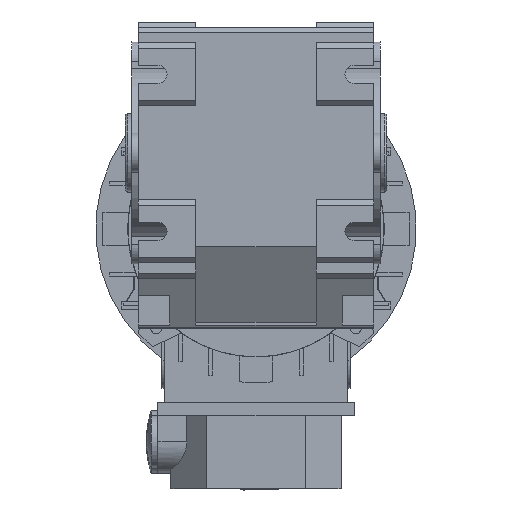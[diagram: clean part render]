
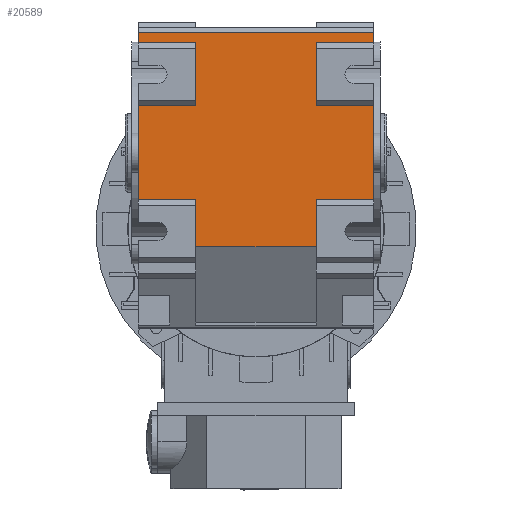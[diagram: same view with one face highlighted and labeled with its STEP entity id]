
A CAD part, left-side view. The second image highlights one B-rep face of the part: STEP entity #20589.
In plain terms, the highlighted planar face has unit normal (-1, 0, 0).
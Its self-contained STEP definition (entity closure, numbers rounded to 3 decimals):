
#379=PLANE('',#21843);
#1520=FACE_OUTER_BOUND('',#2653,.T.);
#2653=EDGE_LOOP('',(#14976,#14977,#14978,#14979,#14980,#14981,#14982,#14983,
#14984,#14985,#14986,#14987,#14988,#14989,#14990,#14991));
#4397=LINE('',#29626,#6833);
#4401=LINE('',#29632,#6837);
#4402=LINE('',#29635,#6838);
#4404=LINE('',#29639,#6840);
#4409=LINE('',#29649,#6845);
#4412=LINE('',#29655,#6848);
#4472=LINE('',#29801,#6908);
#4475=LINE('',#29807,#6911);
#4477=LINE('',#29810,#6913);
#4560=LINE('',#29986,#6996);
#4561=LINE('',#29989,#6997);
#4583=LINE('',#30039,#7019);
#4587=LINE('',#30047,#7023);
#4588=LINE('',#30049,#7024);
#4589=LINE('',#30050,#7025);
#4590=LINE('',#30051,#7026);
#6833=VECTOR('',#23795,1.);
#6837=VECTOR('',#23801,1.);
#6838=VECTOR('',#23804,1.);
#6840=VECTOR('',#23808,1.);
#6845=VECTOR('',#23815,1.);
#6848=VECTOR('',#23820,1.);
#6908=VECTOR('',#23958,1.);
#6911=VECTOR('',#23963,1.);
#6913=VECTOR('',#23967,1.);
#6996=VECTOR('',#24140,1.);
#6997=VECTOR('',#24143,1.);
#7019=VECTOR('',#24191,1.);
#7023=VECTOR('',#24197,1.);
#7024=VECTOR('',#24198,1.);
#7025=VECTOR('',#24199,1.);
#7026=VECTOR('',#24200,1.);
#9281=VERTEX_POINT('',#29623);
#9282=VERTEX_POINT('',#29625);
#9283=VERTEX_POINT('',#29630);
#9284=VERTEX_POINT('',#29634);
#9285=VERTEX_POINT('',#29638);
#9286=VERTEX_POINT('',#29642);
#9289=VERTEX_POINT('',#29647);
#9291=VERTEX_POINT('',#29652);
#9338=VERTEX_POINT('',#29799);
#9340=VERTEX_POINT('',#29805);
#9388=VERTEX_POINT('',#29984);
#9389=VERTEX_POINT('',#29988);
#9403=VERTEX_POINT('',#30037);
#9404=VERTEX_POINT('',#30038);
#9407=VERTEX_POINT('',#30046);
#9408=VERTEX_POINT('',#30048);
#11374=EDGE_CURVE('',#9282,#9281,#4397,.T.);
#11378=EDGE_CURVE('',#9283,#9282,#4401,.T.);
#11379=EDGE_CURVE('',#9283,#9284,#4402,.T.);
#11381=EDGE_CURVE('',#9284,#9285,#4404,.T.);
#11386=EDGE_CURVE('',#9289,#9286,#4409,.T.);
#11389=EDGE_CURVE('',#9291,#9286,#4412,.T.);
#11462=EDGE_CURVE('',#9289,#9338,#4472,.T.);
#11465=EDGE_CURVE('',#9338,#9340,#4475,.T.);
#11467=EDGE_CURVE('',#9340,#9285,#4477,.T.);
#11556=EDGE_CURVE('',#9388,#9281,#4560,.T.);
#11557=EDGE_CURVE('',#9389,#9291,#4561,.T.);
#11582=EDGE_CURVE('',#9403,#9404,#4583,.T.);
#11586=EDGE_CURVE('',#9404,#9407,#4587,.T.);
#11587=EDGE_CURVE('',#9408,#9407,#4588,.T.);
#11588=EDGE_CURVE('',#9408,#9389,#4589,.T.);
#11589=EDGE_CURVE('',#9403,#9388,#4590,.T.);
#14976=ORIENTED_EDGE('',*,*,#11582,.T.);
#14977=ORIENTED_EDGE('',*,*,#11586,.T.);
#14978=ORIENTED_EDGE('',*,*,#11587,.F.);
#14979=ORIENTED_EDGE('',*,*,#11588,.T.);
#14980=ORIENTED_EDGE('',*,*,#11557,.T.);
#14981=ORIENTED_EDGE('',*,*,#11389,.T.);
#14982=ORIENTED_EDGE('',*,*,#11386,.F.);
#14983=ORIENTED_EDGE('',*,*,#11462,.T.);
#14984=ORIENTED_EDGE('',*,*,#11465,.T.);
#14985=ORIENTED_EDGE('',*,*,#11467,.T.);
#14986=ORIENTED_EDGE('',*,*,#11381,.F.);
#14987=ORIENTED_EDGE('',*,*,#11379,.F.);
#14988=ORIENTED_EDGE('',*,*,#11378,.T.);
#14989=ORIENTED_EDGE('',*,*,#11374,.T.);
#14990=ORIENTED_EDGE('',*,*,#11556,.F.);
#14991=ORIENTED_EDGE('',*,*,#11589,.F.);
#20589=ADVANCED_FACE('',(#1520),#379,.T.);
#21843=AXIS2_PLACEMENT_3D('',#30045,#24195,#24196);
#23795=DIRECTION('',(0.,0.,-1.));
#23801=DIRECTION('',(0.,1.,0.));
#23804=DIRECTION('',(0.,0.,1.));
#23808=DIRECTION('',(0.,1.,0.));
#23815=DIRECTION('',(0.,1.,0.));
#23820=DIRECTION('',(0.,0.,1.));
#23958=DIRECTION('',(0.,0.,1.));
#23963=DIRECTION('',(0.,1.,0.));
#23967=DIRECTION('',(0.,0.,-1.));
#24140=DIRECTION('',(0.,1.,0.));
#24143=DIRECTION('',(0.,1.,0.));
#24191=DIRECTION('',(0.,-1.,0.));
#24195=DIRECTION('center_axis',(-1.,0.,0.));
#24196=DIRECTION('ref_axis',(0.,1.,0.));
#24197=DIRECTION('',(0.,0.,1.));
#24198=DIRECTION('',(0.,1.,0.));
#24199=DIRECTION('',(0.,0.,1.));
#24200=DIRECTION('',(0.,0.,1.));
#29623=CARTESIAN_POINT('',(-130.5,45.,11.));
#29625=CARTESIAN_POINT('',(-130.5,45.,47.));
#29626=CARTESIAN_POINT('',(-130.5,45.,11.));
#29630=CARTESIAN_POINT('',(-130.5,23.,47.));
#29632=CARTESIAN_POINT('',(-130.5,-45.,47.));
#29634=CARTESIAN_POINT('',(-130.5,23.,71.));
#29635=CARTESIAN_POINT('',(-130.5,23.,30.));
#29638=CARTESIAN_POINT('',(-130.5,45.,71.));
#29639=CARTESIAN_POINT('',(-130.5,-45.,71.));
#29642=CARTESIAN_POINT('',(-130.5,-23.,71.));
#29647=CARTESIAN_POINT('',(-130.5,-45.,71.));
#29649=CARTESIAN_POINT('',(-130.5,-45.,71.));
#29652=CARTESIAN_POINT('',(-130.5,-23.,47.));
#29655=CARTESIAN_POINT('',(-130.5,-23.,30.));
#29799=CARTESIAN_POINT('',(-130.5,-45.,75.));
#29801=CARTESIAN_POINT('',(-130.5,-45.,71.));
#29805=CARTESIAN_POINT('',(-130.5,45.,75.));
#29807=CARTESIAN_POINT('',(-130.5,-45.,75.));
#29810=CARTESIAN_POINT('',(-130.5,45.,71.));
#29984=CARTESIAN_POINT('',(-130.5,23.,11.));
#29986=CARTESIAN_POINT('',(-130.5,-45.,11.));
#29988=CARTESIAN_POINT('',(-130.5,-45.,47.));
#29989=CARTESIAN_POINT('',(-130.5,-45.,47.));
#30037=CARTESIAN_POINT('',(-130.5,23.,-6.987));
#30038=CARTESIAN_POINT('',(-130.5,-23.,-6.987));
#30039=CARTESIAN_POINT('',(-130.5,-34.,-6.987));
#30045=CARTESIAN_POINT('Origin',(-130.5,-45.,-13.));
#30046=CARTESIAN_POINT('',(-130.5,-23.,11.));
#30047=CARTESIAN_POINT('',(-130.5,-23.,30.));
#30048=CARTESIAN_POINT('',(-130.5,-45.,11.));
#30049=CARTESIAN_POINT('',(-130.5,-45.,11.));
#30050=CARTESIAN_POINT('',(-130.5,-45.,11.));
#30051=CARTESIAN_POINT('',(-130.5,23.,30.));
